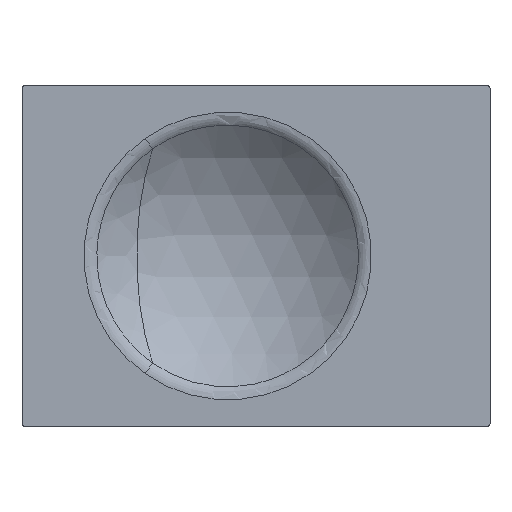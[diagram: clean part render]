
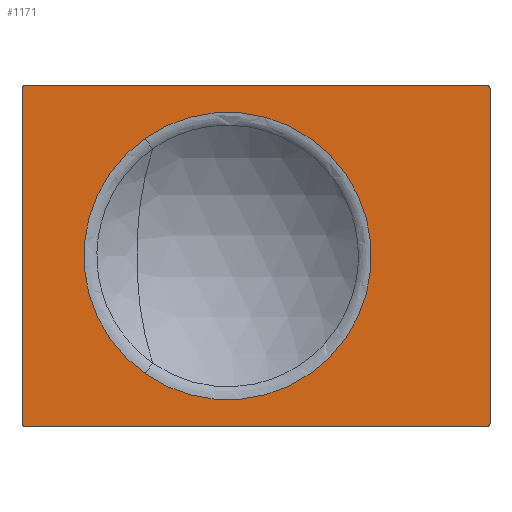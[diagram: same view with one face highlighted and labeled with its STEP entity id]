
A CAD part, top view. The second image highlights one B-rep face of the part: STEP entity #1171.
In plain terms, the highlighted planar face has unit normal (0, 0, 1).
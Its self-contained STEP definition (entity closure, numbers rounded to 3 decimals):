
#933=AXIS2_PLACEMENT_3D('Circle Axis2P3D',#931,#932,$) ;
#1012=AXIS2_PLACEMENT_3D('Circle Axis2P3D',#1010,#1011,$) ;
#1060=AXIS2_PLACEMENT_3D('Circle Axis2P3D',#1058,#1059,$) ;
#1108=AXIS2_PLACEMENT_3D('Circle Axis2P3D',#1106,#1107,$) ;
#1141=AXIS2_PLACEMENT_3D('Plane Axis2P3D',#1138,#1139,#1140) ;
#1155=AXIS2_PLACEMENT_3D('Circle Axis2P3D',#1153,#1154,$) ;
#1164=AXIS2_PLACEMENT_3D('Circle Axis2P3D',#1162,#1163,$) ;
#931=CARTESIAN_POINT('Axis2P3D Location',(-517.5,-186.5,5.4)) ;
#935=CARTESIAN_POINT('Vertex',(-517.5,-189.,5.4)) ;
#937=CARTESIAN_POINT('Vertex',(-520.,-186.5,5.4)) ;
#962=CARTESIAN_POINT('Line Origine',(-520.,0.,5.4)) ;
#966=CARTESIAN_POINT('Vertex',(-520.,186.5,5.4)) ;
#990=CARTESIAN_POINT('Vertex',(-2.5,-189.,5.4)) ;
#993=CARTESIAN_POINT('Line Origine',(-260.,-189.,5.4)) ;
#1010=CARTESIAN_POINT('Axis2P3D Location',(-517.5,186.5,5.4)) ;
#1014=CARTESIAN_POINT('Vertex',(-517.5,189.,5.4)) ;
#1034=CARTESIAN_POINT('Line Origine',(-260.,189.,5.4)) ;
#1038=CARTESIAN_POINT('Vertex',(-2.5,189.,5.4)) ;
#1058=CARTESIAN_POINT('Axis2P3D Location',(-2.5,-186.5,5.4)) ;
#1062=CARTESIAN_POINT('Vertex',(0.,-186.5,5.4)) ;
#1086=CARTESIAN_POINT('Vertex',(0.,186.5,5.4)) ;
#1089=CARTESIAN_POINT('Line Origine',(0.,0.,5.4)) ;
#1106=CARTESIAN_POINT('Axis2P3D Location',(-2.5,186.5,5.4)) ;
#1138=CARTESIAN_POINT('Axis2P3D Location',(-260.,0.,5.4)) ;
#1153=CARTESIAN_POINT('Axis2P3D Location',(-291.5,0.,5.4)) ;
#1157=CARTESIAN_POINT('Vertex',(-383.17,-130.862,5.4)) ;
#1159=CARTESIAN_POINT('Vertex',(-383.17,130.862,5.4)) ;
#1162=CARTESIAN_POINT('Axis2P3D Location',(-291.5,0.,5.4)) ;
#932=DIRECTION('Axis2P3D Direction',(0.,0.,1.)) ;
#963=DIRECTION('Vector Direction',(0.,1.,0.)) ;
#994=DIRECTION('Vector Direction',(1.,0.,0.)) ;
#1011=DIRECTION('Axis2P3D Direction',(0.,0.,1.)) ;
#1035=DIRECTION('Vector Direction',(-1.,0.,0.)) ;
#1059=DIRECTION('Axis2P3D Direction',(0.,0.,1.)) ;
#1090=DIRECTION('Vector Direction',(0.,-1.,0.)) ;
#1107=DIRECTION('Axis2P3D Direction',(0.,-0.,1.)) ;
#1139=DIRECTION('Axis2P3D Direction',(0.,-0.,1.)) ;
#1140=DIRECTION('Axis2P3D XDirection',(0.,1.,0.)) ;
#1154=DIRECTION('Axis2P3D Direction',(0.,-0.,1.)) ;
#1163=DIRECTION('Axis2P3D Direction',(0.,-0.,1.)) ;
#964=VECTOR('Line Direction',#963,1.) ;
#995=VECTOR('Line Direction',#994,1.) ;
#1036=VECTOR('Line Direction',#1035,1.) ;
#1091=VECTOR('Line Direction',#1090,1.) ;
#1144=ORIENTED_EDGE('',*,*,#997,.T.) ;
#1145=ORIENTED_EDGE('',*,*,#1064,.F.) ;
#1146=ORIENTED_EDGE('',*,*,#1093,.T.) ;
#1147=ORIENTED_EDGE('',*,*,#1110,.F.) ;
#1148=ORIENTED_EDGE('',*,*,#1040,.T.) ;
#1149=ORIENTED_EDGE('',*,*,#1016,.F.) ;
#1150=ORIENTED_EDGE('',*,*,#968,.T.) ;
#1151=ORIENTED_EDGE('',*,*,#939,.F.) ;
#1168=ORIENTED_EDGE('',*,*,#1161,.T.) ;
#1169=ORIENTED_EDGE('',*,*,#1166,.T.) ;
#1170=FACE_BOUND('',#1167,.T.) ;
#1171=ADVANCED_FACE('Blende',(#1152,#1170),#1142,.T.) ;
#934=CIRCLE('generated circle',#933,2.5) ;
#1013=CIRCLE('generated circle',#1012,2.5) ;
#1061=CIRCLE('generated circle',#1060,2.5) ;
#1109=CIRCLE('generated circle',#1108,2.5) ;
#1156=CIRCLE('generated circle',#1155,159.775) ;
#1165=CIRCLE('generated circle',#1164,159.775) ;
#939=EDGE_CURVE('',#936,#938,#934,.F.) ;
#968=EDGE_CURVE('',#967,#938,#965,.F.) ;
#997=EDGE_CURVE('',#936,#991,#996,.T.) ;
#1016=EDGE_CURVE('',#967,#1015,#1013,.F.) ;
#1040=EDGE_CURVE('',#1039,#1015,#1037,.T.) ;
#1064=EDGE_CURVE('',#1063,#991,#1061,.F.) ;
#1093=EDGE_CURVE('',#1063,#1087,#1092,.F.) ;
#1110=EDGE_CURVE('',#1039,#1087,#1109,.F.) ;
#1161=EDGE_CURVE('',#1158,#1160,#1156,.F.) ;
#1166=EDGE_CURVE('',#1160,#1158,#1165,.F.) ;
#1143=EDGE_LOOP('',(#1144,#1145,#1146,#1147,#1148,#1149,#1150,#1151)) ;
#1167=EDGE_LOOP('',(#1168,#1169)) ;
#1152=FACE_OUTER_BOUND('',#1143,.T.) ;
#965=LINE('Line',#962,#964) ;
#996=LINE('Line',#993,#995) ;
#1037=LINE('Line',#1034,#1036) ;
#1092=LINE('Line',#1089,#1091) ;
#1142=PLANE('',#1141) ;
#936=VERTEX_POINT('',#935) ;
#938=VERTEX_POINT('',#937) ;
#967=VERTEX_POINT('',#966) ;
#991=VERTEX_POINT('',#990) ;
#1015=VERTEX_POINT('',#1014) ;
#1039=VERTEX_POINT('',#1038) ;
#1063=VERTEX_POINT('',#1062) ;
#1087=VERTEX_POINT('',#1086) ;
#1158=VERTEX_POINT('',#1157) ;
#1160=VERTEX_POINT('',#1159) ;
